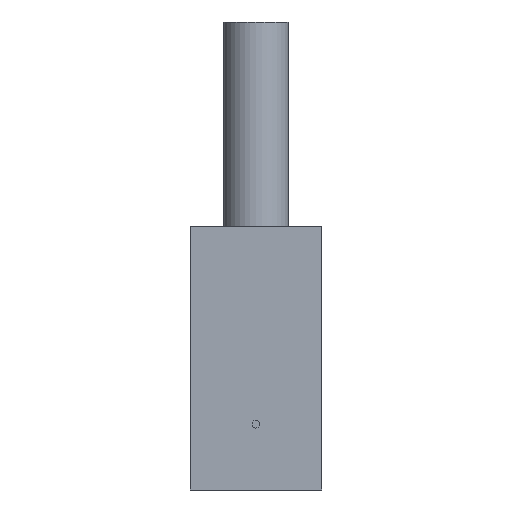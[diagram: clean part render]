
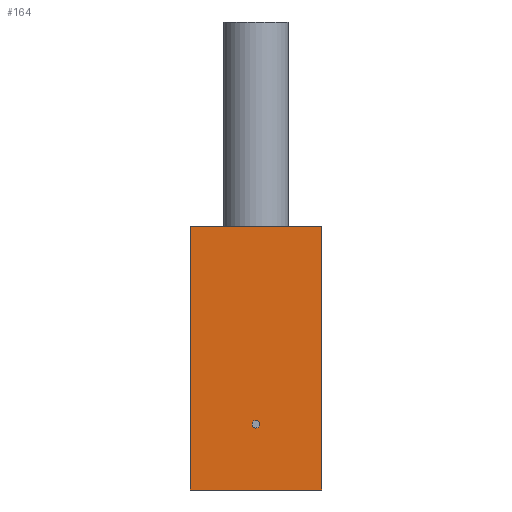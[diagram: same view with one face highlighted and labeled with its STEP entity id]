
A CAD part, left-side view. The second image highlights one B-rep face of the part: STEP entity #164.
In plain terms, the highlighted planar face has unit normal (-1, 0, 0).
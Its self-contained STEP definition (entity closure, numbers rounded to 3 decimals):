
#1 = LINE ( 'NONE', #81, #472 ) ;
#35 = DIRECTION ( 'NONE',  ( 0., 0., -1. ) ) ;
#44 = ORIENTED_EDGE ( 'NONE', *, *, #190, .T. ) ;
#81 = CARTESIAN_POINT ( 'NONE',  ( -10., -10., 0. ) ) ;
#87 = DIRECTION ( 'NONE',  ( 1., 0., 0. ) ) ;
#90 = CARTESIAN_POINT ( 'NONE',  ( -10., -10., 40. ) ) ;
#126 = EDGE_CURVE ( 'NONE', #469, #275, #424, .T. ) ;
#143 = CARTESIAN_POINT ( 'NONE',  ( -10., 10., 40. ) ) ;
#152 = CARTESIAN_POINT ( 'NONE',  ( -10., -10., 0. ) ) ;
#164 = ADVANCED_FACE ( 'NONE', ( #199 ), #599, .F. ) ;
#178 = CARTESIAN_POINT ( 'NONE',  ( -10., -10., 40. ) ) ;
#183 = VECTOR ( 'NONE', #35, 1000. ) ;
#190 = EDGE_CURVE ( 'NONE', #554, #275, #1, .T. ) ;
#199 = FACE_OUTER_BOUND ( 'NONE', #523, .T. ) ;
#206 = EDGE_CURVE ( 'NONE', #297, #554, #477, .T. ) ;
#225 = DIRECTION ( 'NONE',  ( 0., -1., 0. ) ) ;
#253 = EDGE_CURVE ( 'NONE', #297, #469, #587, .T. ) ;
#275 = VERTEX_POINT ( 'NONE', #152 ) ;
#288 = DIRECTION ( 'NONE',  ( 0., -1., 0. ) ) ;
#297 = VERTEX_POINT ( 'NONE', #143 ) ;
#311 = ORIENTED_EDGE ( 'NONE', *, *, #126, .F. ) ;
#332 = CARTESIAN_POINT ( 'NONE',  ( -10., -10., 40. ) ) ;
#347 = CARTESIAN_POINT ( 'NONE',  ( -10., 10., 0. ) ) ;
#350 = VECTOR ( 'NONE', #595, 1000. ) ;
#352 = DIRECTION ( 'NONE',  ( 0., 0., -1. ) ) ;
#356 = ORIENTED_EDGE ( 'NONE', *, *, #253, .F. ) ;
#389 = AXIS2_PLACEMENT_3D ( 'NONE', #407, #87, #352 ) ;
#407 = CARTESIAN_POINT ( 'NONE',  ( -10., -10., 40. ) ) ;
#424 = LINE ( 'NONE', #90, #183 ) ;
#469 = VERTEX_POINT ( 'NONE', #178 ) ;
#472 = VECTOR ( 'NONE', #225, 1000. ) ;
#477 = LINE ( 'NONE', #511, #350 ) ;
#511 = CARTESIAN_POINT ( 'NONE',  ( -10., 10., 40. ) ) ;
#523 = EDGE_LOOP ( 'NONE', ( #526, #44, #311, #356 ) ) ;
#526 = ORIENTED_EDGE ( 'NONE', *, *, #206, .T. ) ;
#554 = VERTEX_POINT ( 'NONE', #347 ) ;
#574 = VECTOR ( 'NONE', #288, 1000. ) ;
#587 = LINE ( 'NONE', #332, #574 ) ;
#595 = DIRECTION ( 'NONE',  ( 0., 0., -1. ) ) ;
#599 = PLANE ( 'NONE',  #389 ) ;
